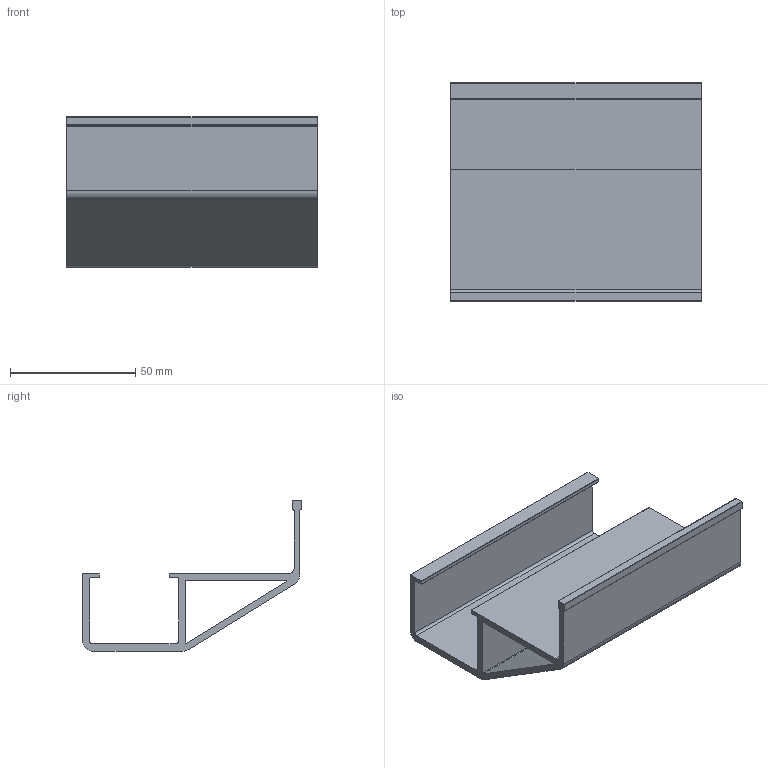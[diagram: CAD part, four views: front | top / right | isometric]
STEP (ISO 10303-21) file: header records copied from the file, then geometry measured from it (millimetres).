
FILE_DESCRIPTION (( 'STEP AP203' ), '1' );
FILE_NAME ('800.029.008.STEP', '2013-01-21T12:40:56', ( '' ), ( '' ), 'SwSTEP 2.0', 'SolidWorks 2011', '' );
FILE_SCHEMA (( 'CONFIG_CONTROL_DESIGN' ));
Length unit declared in the file: millimetre
Products named in the file (1): 800.029.008
Bounding box: 100 x 87.1 x 60 mm (x, y, z)
Volume: 61463 mm3; surface area: 46571.8 mm2
Topology: 1 solids, 1 shells, 44 faces, 126 edges, 84 vertices
Faces by surface type: cylinder 22, plane 22
Entity records: 1535 total; most frequent: DIRECTION 260, CARTESIAN_POINT 255, ORIENTED_EDGE 252, EDGE_CURVE 126, AXIS2_PLACEMENT_3D 89, VERTEX_POINT 84, VECTOR 82, LINE 82
